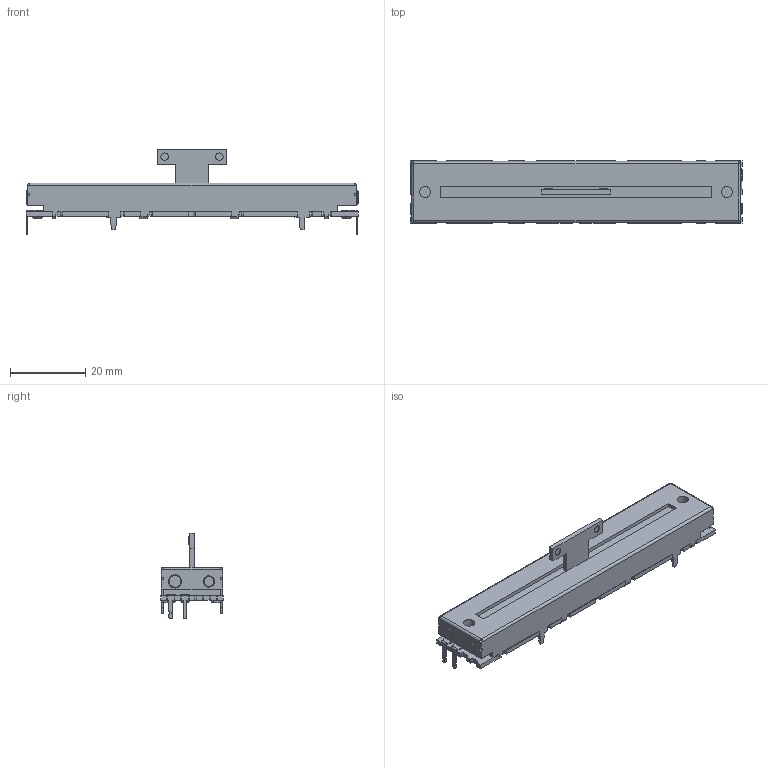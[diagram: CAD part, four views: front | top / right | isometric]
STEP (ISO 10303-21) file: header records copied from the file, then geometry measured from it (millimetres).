
FILE_DESCRIPTION(('FreeCAD Model'),'2;1');
FILE_NAME('Open CASCADE Shape Model','2023-03-16T15:22:17',(''),(''), 'Open CASCADE STEP processor 7.6','FreeCAD','Unknown');
FILE_SCHEMA(('AUTOMOTIVE_DESIGN { 1 0 10303 214 1 1 1 1 }'));
Length unit declared in the file: millimetre
Products named in the file (1): Fusion002009
Bounding box: 88 x 16.5 x 22.7 mm (x, y, z)
Volume: 12102 mm3; surface area: 5703.7 mm2
Topology: 1 solids, 4 shells, 490 faces, 1319 edges, 849 vertices
Faces by surface type: plane 364, cylinder 116, cone 7, torus 3
Full cylindrical faces by diameter (mm): 0.5 x9, 1.5 x3, 1.7 x8, 2 x4, 3 x4, 3.5 x2
Entity records: 34414 total; most frequent: CARTESIAN_POINT 6743, DIRECTION 4219, ORIENTED_EDGE 2638, PCURVE 2638, DEFINITIONAL_REPRESENTATION 2638, LINE 2589, VECTOR 2589, EDGE_CURVE 1319
